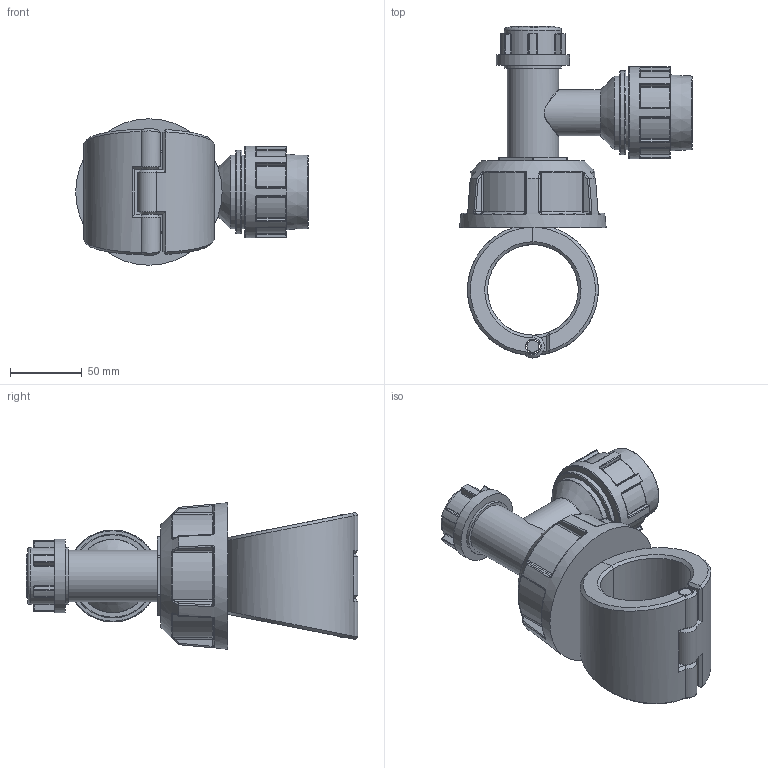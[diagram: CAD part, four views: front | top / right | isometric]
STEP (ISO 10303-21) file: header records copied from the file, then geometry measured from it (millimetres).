
FILE_DESCRIPTION(/* description */ ('Plassadle Tapper 63x25'),/* implementation_level */ '2;1');
FILE_NAME(/* name */ 'C:\Users\comp2\Dropbox\99-16-3568-Processing\Mechanical Fittings\16310\stp\163100063032_1631060630320A.stp',/* time_stamp */ '2022-02-03T11:57:04+00:00',/* author */ ('comp2'),/* organization */ (''),/* preprocessor_version */ 'ST-DEVELOPER v17.2',/* originating_system */ 'Autodesk Inventor 2019',/* authorisation */ '');
FILE_SCHEMA (('AUTOMOTIVE_DESIGN { 1 0 10303 214 3 1 1 }'));
Length unit declared in the file: millimetre
Products named in the file (1): 163100063032_1631060630320A
Bounding box: 162 x 231 x 102 mm (x, y, z)
Volume: 803360.6 mm3; surface area: 112278.6 mm2
Topology: 4 solids, 4 shells, 519 faces, 1253 edges, 754 vertices
Faces by surface type: cylinder 184, plane 109, bspline 87, torus 83, sphere 40, cone 16
Full cylindrical faces by diameter (mm): 8.22 x1, 10.22 x3, 30.6 x1, 32 x2, 35.7 x1, 39.7 x2, 51 x1, 51.2 x2, 58.414 x1, 64 x1
Entity records: 18791 total; most frequent: CARTESIAN_POINT 7038, ORIENTED_EDGE 2508, DIRECTION 2426, EDGE_CURVE 1254, AXIS2_PLACEMENT_3D 1028, VERTEX_POINT 755, CIRCLE 563, EDGE_LOOP 537
